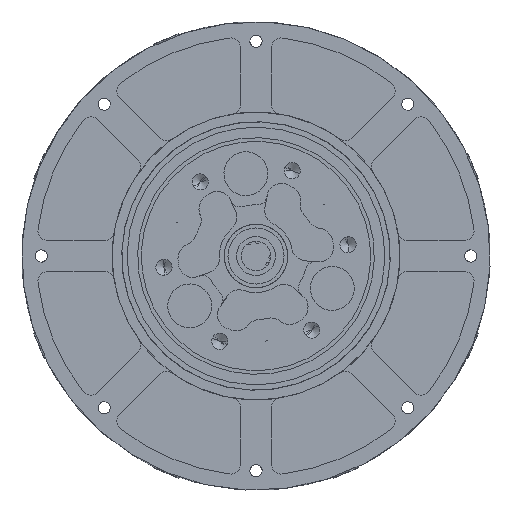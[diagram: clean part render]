
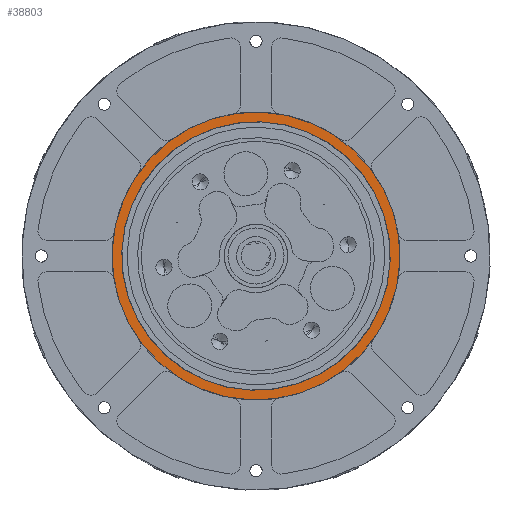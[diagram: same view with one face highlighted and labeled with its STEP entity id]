
A CAD part, front view. The second image highlights one B-rep face of the part: STEP entity #38803.
In plain terms, the highlighted planar face has unit normal (0, -1, 0).
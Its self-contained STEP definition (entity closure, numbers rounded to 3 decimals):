
#380 = DIRECTION ( 'NONE',  ( 0., 0., -1. ) ) ;
#2090 = DIRECTION ( 'NONE',  ( 0., -1., 0. ) ) ;
#3561 = CARTESIAN_POINT ( 'NONE',  ( 0., -1.3, -27.5 ) ) ;
#4256 = AXIS2_PLACEMENT_3D ( 'NONE', #51591, #2090, #57739 ) ;
#6311 = ORIENTED_EDGE ( 'NONE', *, *, #38359, .T. ) ;
#6525 = CARTESIAN_POINT ( 'NONE',  ( 0., -1.3, 0. ) ) ;
#7744 = CIRCLE ( 'NONE', #4256, 27.5 ) ;
#7813 = VERTEX_POINT ( 'NONE', #66554 ) ;
#9178 = CARTESIAN_POINT ( 'NONE',  ( 0., -1.3, 0. ) ) ;
#9628 = VERTEX_POINT ( 'NONE', #9678 ) ;
#9678 = CARTESIAN_POINT ( 'NONE',  ( 0., -1.3, 27.5 ) ) ;
#9911 = DIRECTION ( 'NONE',  ( 0., -1., 0. ) ) ;
#10334 = ORIENTED_EDGE ( 'NONE', *, *, #37493, .T. ) ;
#13157 = ORIENTED_EDGE ( 'NONE', *, *, #35454, .F. ) ;
#13271 = PLANE ( 'NONE',  #52231 ) ;
#16637 = FACE_BOUND ( 'NONE', #56197, .T. ) ;
#17422 = DIRECTION ( 'NONE',  ( 0., 0., -1. ) ) ;
#18497 = CARTESIAN_POINT ( 'NONE',  ( 0., -1.3, 29.5 ) ) ;
#25560 = CIRCLE ( 'NONE', #52130, 29.5 ) ;
#28285 = CARTESIAN_POINT ( 'NONE',  ( 0., -1.3, 0. ) ) ;
#33004 = DIRECTION ( 'NONE',  ( 0., -1., 0. ) ) ;
#35311 = DIRECTION ( 'NONE',  ( 0., -1., 0. ) ) ;
#35454 = EDGE_CURVE ( 'NONE', #62685, #9628, #49613, .T. ) ;
#36054 = CIRCLE ( 'NONE', #57990, 29.5 ) ;
#37493 = EDGE_CURVE ( 'NONE', #55579, #7813, #25560, .T. ) ;
#37732 = DIRECTION ( 'NONE',  ( 0., 0., -1. ) ) ;
#38083 = AXIS2_PLACEMENT_3D ( 'NONE', #9178, #9911, #37732 ) ;
#38337 = CARTESIAN_POINT ( 'NONE',  ( 0., -1.3, 0. ) ) ;
#38359 = EDGE_CURVE ( 'NONE', #7813, #55579, #36054, .T. ) ;
#38803 = ADVANCED_FACE ( 'NONE', ( #16637, #61091 ), #13271, .T. ) ;
#42047 = ORIENTED_EDGE ( 'NONE', *, *, #50551, .F. ) ;
#45184 = DIRECTION ( 'NONE',  ( 0., -1., 0. ) ) ;
#49613 = CIRCLE ( 'NONE', #38083, 27.5 ) ;
#50551 = EDGE_CURVE ( 'NONE', #9628, #62685, #7744, .T. ) ;
#51591 = CARTESIAN_POINT ( 'NONE',  ( 0., -1.3, 0. ) ) ;
#52130 = AXIS2_PLACEMENT_3D ( 'NONE', #6525, #45184, #66872 ) ;
#52231 = AXIS2_PLACEMENT_3D ( 'NONE', #38337, #35311, #380 ) ;
#54954 = EDGE_LOOP ( 'NONE', ( #10334, #6311 ) ) ;
#55579 = VERTEX_POINT ( 'NONE', #18497 ) ;
#56197 = EDGE_LOOP ( 'NONE', ( #13157, #42047 ) ) ;
#57739 = DIRECTION ( 'NONE',  ( 0., 0., -1. ) ) ;
#57990 = AXIS2_PLACEMENT_3D ( 'NONE', #28285, #33004, #17422 ) ;
#61091 = FACE_OUTER_BOUND ( 'NONE', #54954, .T. ) ;
#62685 = VERTEX_POINT ( 'NONE', #3561 ) ;
#66554 = CARTESIAN_POINT ( 'NONE',  ( 0., -1.3, -29.5 ) ) ;
#66872 = DIRECTION ( 'NONE',  ( 0., 0., -1. ) ) ;
